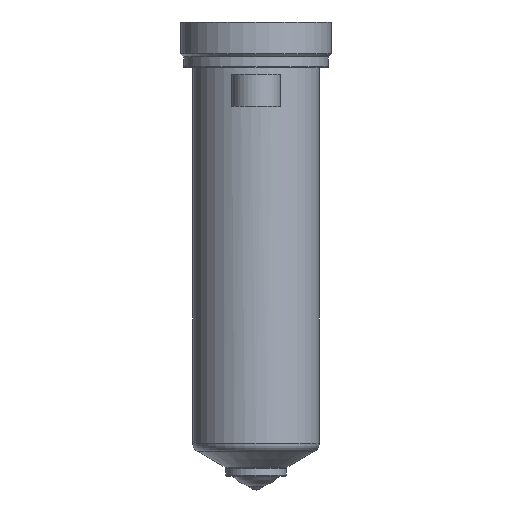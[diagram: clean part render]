
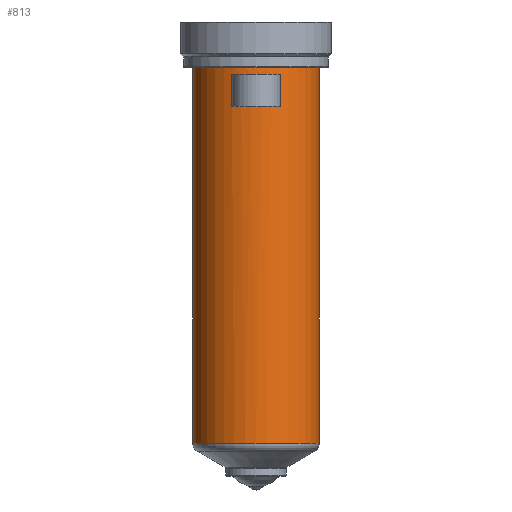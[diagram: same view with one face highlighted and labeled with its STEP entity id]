
A CAD part, top view. The second image highlights one B-rep face of the part: STEP entity #813.
In plain terms, the highlighted cylindrical face has radius 21 mm (diameter 42 mm), a partial arc.
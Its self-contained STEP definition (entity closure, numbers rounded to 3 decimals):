
#199=DIRECTION('',(0.,-1.,0.));
#200=VECTOR('',#199,124.528);
#201=CARTESIAN_POINT('',(21.,0.,0.));
#202=LINE('',#201,#200);
#203=CARTESIAN_POINT('',(0.,-124.528,0.));
#204=DIRECTION('',(0.,1.,0.));
#205=DIRECTION('',(-1.,0.,0.));
#206=AXIS2_PLACEMENT_3D('',#203,#204,#205);
#208=DIRECTION('',(0.,1.,0.));
#209=VECTOR('',#208,124.528);
#210=CARTESIAN_POINT('',(-21.,-124.528,0.));
#211=LINE('',#210,#209);
#212=CARTESIAN_POINT('',(0.,0.,0.));
#213=DIRECTION('',(0.,1.,0.));
#214=DIRECTION('',(-1.,0.,0.));
#215=AXIS2_PLACEMENT_3D('',#212,#213,#214);
#379=DIRECTION('',(0.,-1.,0.));
#380=VECTOR('',#379,10.5);
#381=CARTESIAN_POINT('',(-8.,-2.5,19.416));
#382=LINE('',#381,#380);
#383=CARTESIAN_POINT('',(0.,-13.,0.));
#384=DIRECTION('',(0.,1.,0.));
#385=DIRECTION('',(-0.381,0.,0.925));
#386=AXIS2_PLACEMENT_3D('',#383,#384,#385);
#409=CARTESIAN_POINT('',(0.,-2.5,0.));
#410=DIRECTION('',(0.,-1.,0.));
#411=DIRECTION('',(0.381,0.,0.925));
#412=AXIS2_PLACEMENT_3D('',#409,#410,#411);
#427=DIRECTION('',(0.,-1.,0.));
#428=VECTOR('',#427,10.5);
#429=CARTESIAN_POINT('',(8.,-2.5,19.416));
#430=LINE('',#429,#428);
#488=CARTESIAN_POINT('',(-21.,0.,0.));
#489=CARTESIAN_POINT('',(21.,0.,0.));
#490=VERTEX_POINT('',#488);
#491=VERTEX_POINT('',#489);
#500=CARTESIAN_POINT('',(-8.,-2.5,19.416));
#501=VERTEX_POINT('',#500);
#502=CARTESIAN_POINT('',(8.,-2.5,19.416));
#503=VERTEX_POINT('',#502);
#540=CARTESIAN_POINT('',(21.,-124.528,0.));
#541=VERTEX_POINT('',#540);
#550=CARTESIAN_POINT('',(-21.,-124.528,0.));
#551=VERTEX_POINT('',#550);
#572=CARTESIAN_POINT('',(-8.,-13.,19.416));
#573=CARTESIAN_POINT('',(8.,-13.,19.416));
#574=VERTEX_POINT('',#572);
#575=VERTEX_POINT('',#573);
#791=CARTESIAN_POINT('',(0.,16.4,0.));
#792=DIRECTION('',(0.,-1.,0.));
#793=DIRECTION('',(-1.,0.,0.));
#794=AXIS2_PLACEMENT_3D('',#791,#792,#793);
#795=CYLINDRICAL_SURFACE('',#794,21.);
#796=ORIENTED_EDGE('',*,*,#785,.T.);
#798=ORIENTED_EDGE('',*,*,#797,.F.);
#799=ORIENTED_EDGE('',*,*,#781,.T.);
#800=ORIENTED_EDGE('',*,*,#771,.T.);
#801=EDGE_LOOP('',(#796,#798,#799,#800));
#802=FACE_OUTER_BOUND('',#801,.F.);
#804=ORIENTED_EDGE('',*,*,#803,.T.);
#806=ORIENTED_EDGE('',*,*,#805,.T.);
#808=ORIENTED_EDGE('',*,*,#807,.F.);
#810=ORIENTED_EDGE('',*,*,#809,.T.);
#811=EDGE_LOOP('',(#804,#806,#808,#810));
#812=FACE_BOUND('',#811,.F.);
#813=ADVANCED_FACE('',(#802,#812),#795,.T.);
#207=CIRCLE('',#206,21.);
#216=CIRCLE('',#215,21.);
#387=CIRCLE('',#386,21.);
#413=CIRCLE('',#412,21.);
#771=EDGE_CURVE('',#490,#491,#216,.T.);
#781=EDGE_CURVE('',#551,#490,#211,.T.);
#785=EDGE_CURVE('',#491,#541,#202,.T.);
#797=EDGE_CURVE('',#551,#541,#207,.T.);
#803=EDGE_CURVE('',#501,#574,#382,.T.);
#805=EDGE_CURVE('',#574,#575,#387,.T.);
#807=EDGE_CURVE('',#503,#575,#430,.T.);
#809=EDGE_CURVE('',#503,#501,#413,.T.);
